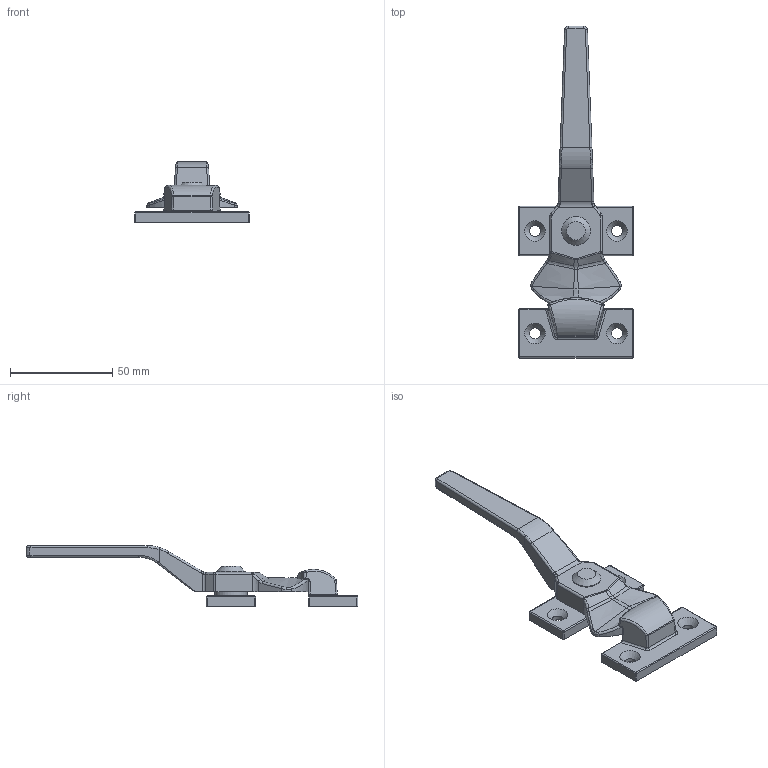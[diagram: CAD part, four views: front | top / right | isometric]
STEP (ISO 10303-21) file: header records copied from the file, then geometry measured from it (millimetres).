
FILE_DESCRIPTION(/* description */ (''),/* implementation_level */ '2;1');
FILE_NAME(/* name */ '\\NAS\db20\D-1110\DR_D-1110.stp',/* time_stamp */ '2017-07-25T08:27:01+09:00',/* author */ ('user'),/* organization */ (''),/* preprocessor_version */ 'ST-DEVELOPER v15.6',/* originating_system */ 'Autodesk Inventor 2015',/* authorisation */ '');
FILE_SCHEMA (('AUTOMOTIVE_DESIGN { 1 0 10303 214 3 1 1 }'));
Length unit declared in the file: millimetre
Products named in the file (4): DR_D-1110-B; DR_D-1110-BR; DR_D-1110-H; DR_D-1110
Bounding box: 56 x 162 x 29.5 mm (x, y, z)
Volume: 33663.6 mm3; surface area: 17270.8 mm2
Topology: 4 solids, 4 shells, 242 faces, 558 edges, 327 vertices
Faces by surface type: bspline 83, cylinder 81, plane 52, sphere 14, cone 10, torus 2
Full cylindrical faces by diameter (mm): 5 x1, 5.5 x7, 9 x1, 14 x1, 16 x2
Entity records: 8376 total; most frequent: CARTESIAN_POINT 3241, ORIENTED_EDGE 1064, DIRECTION 981, EDGE_CURVE 532, AXIS2_PLACEMENT_3D 403, VERTEX_POINT 322, EDGE_LOOP 278, FACE_OUTER_BOUND 242
